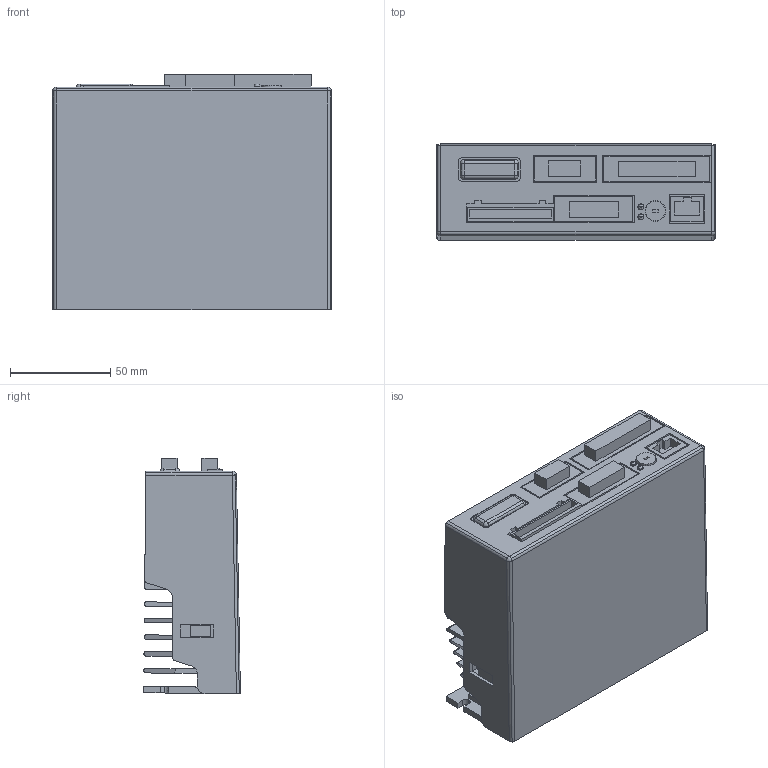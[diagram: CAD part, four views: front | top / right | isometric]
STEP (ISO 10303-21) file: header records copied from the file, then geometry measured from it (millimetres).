
FILE_DESCRIPTION((''),'2;1');
FILE_NAME('CU_SMD-7622-7623','2014-08-01T',('jbuhisan'),(''),'PRO/ENGINEER BY PARAMETRIC TECHNOLOGY CORPORATION, 2014000','PRO/ENGINEER BY PARAMETRIC TECHNOLOGY CORPORATION, 2014000','');
FILE_SCHEMA(('CONFIG_CONTROL_DESIGN'));
Length unit declared in the file: centimetre
Products named in the file (1): CU_SMD-7622-7623
Bounding box: 139 x 48.27 x 117.25 mm (x, y, z)
Volume: 614849.3 mm3; surface area: 101745.2 mm2
Topology: 1 solids, 1 shells, 272 faces, 719 edges, 470 vertices
Faces by surface type: plane 178, cylinder 83, sphere 6, bspline 5
Entity records: 8514 total; most frequent: CARTESIAN_POINT 1737, ORIENTED_EDGE 1426, DIRECTION 1334, EDGE_CURVE 713, VECTOR 532, LINE 532, VERTEX_POINT 470, AXIS2_PLACEMENT_3D 401
